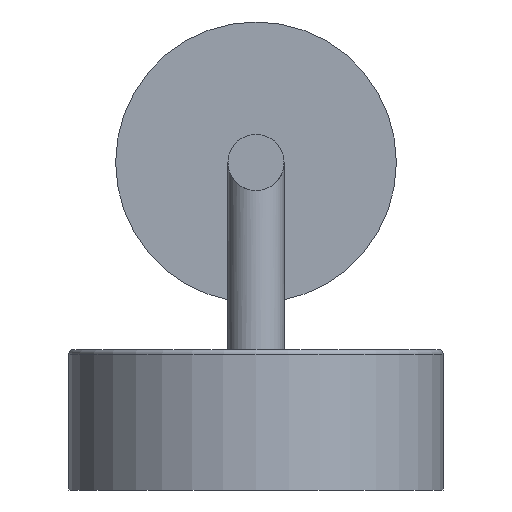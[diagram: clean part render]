
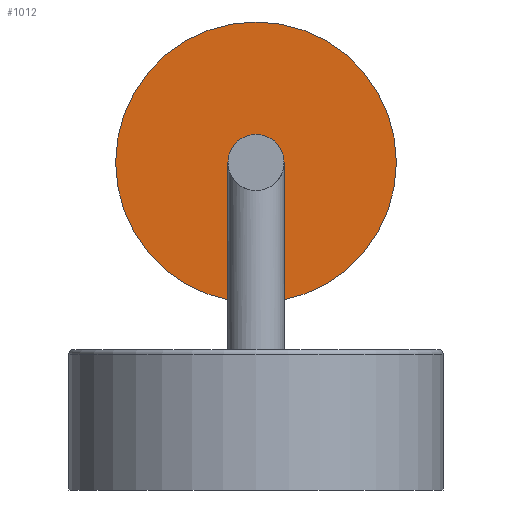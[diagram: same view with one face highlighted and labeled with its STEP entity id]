
A CAD part, front view. The second image highlights one B-rep face of the part: STEP entity #1012.
In plain terms, the highlighted planar face has unit normal (0, -1, 0).
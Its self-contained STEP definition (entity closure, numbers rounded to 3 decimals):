
#73 = DIRECTION ( 'NONE',  ( 0., 0., 1. ) ) ;
#78 = DIRECTION ( 'NONE',  ( 0., 0., 1. ) ) ;
#126 = CARTESIAN_POINT ( 'NONE',  ( -16.594, 61.449, 145. ) ) ;
#140 = CIRCLE ( 'NONE', #829, 30. ) ;
#198 = EDGE_CURVE ( 'NONE', #389, #263, #728, .T. ) ;
#263 = VERTEX_POINT ( 'NONE', #271 ) ;
#270 = DIRECTION ( 'NONE',  ( 0., 1., 0. ) ) ;
#271 = CARTESIAN_POINT ( 'NONE',  ( -16.594, 61.449, 85. ) ) ;
#287 = EDGE_LOOP ( 'NONE', ( #709, #683 ) ) ;
#317 = PLANE ( 'NONE',  #1005 ) ;
#330 = DIRECTION ( 'NONE',  ( 0., 1., 0. ) ) ;
#389 = VERTEX_POINT ( 'NONE', #126 ) ;
#594 = CARTESIAN_POINT ( 'NONE',  ( -16.594, 61.449, 115. ) ) ;
#665 = DIRECTION ( 'NONE',  ( 0., 1., 0. ) ) ;
#676 = DIRECTION ( 'NONE',  ( 0., 0., 1. ) ) ;
#683 = ORIENTED_EDGE ( 'NONE', *, *, #198, .F. ) ;
#709 = ORIENTED_EDGE ( 'NONE', *, *, #878, .F. ) ;
#728 = CIRCLE ( 'NONE', #939, 30. ) ;
#733 = CARTESIAN_POINT ( 'NONE',  ( -16.594, 61.449, 115. ) ) ;
#829 = AXIS2_PLACEMENT_3D ( 'NONE', #733, #330, #73 ) ;
#878 = EDGE_CURVE ( 'NONE', #263, #389, #140, .T. ) ;
#907 = CARTESIAN_POINT ( 'NONE',  ( -16.594, 61.449, 115. ) ) ;
#939 = AXIS2_PLACEMENT_3D ( 'NONE', #594, #270, #676 ) ;
#1005 = AXIS2_PLACEMENT_3D ( 'NONE', #907, #665, #78 ) ;
#1012 = ADVANCED_FACE ( 'NONE', ( #1046 ), #317, .F. ) ;
#1046 = FACE_OUTER_BOUND ( 'NONE', #287, .T. ) ;
